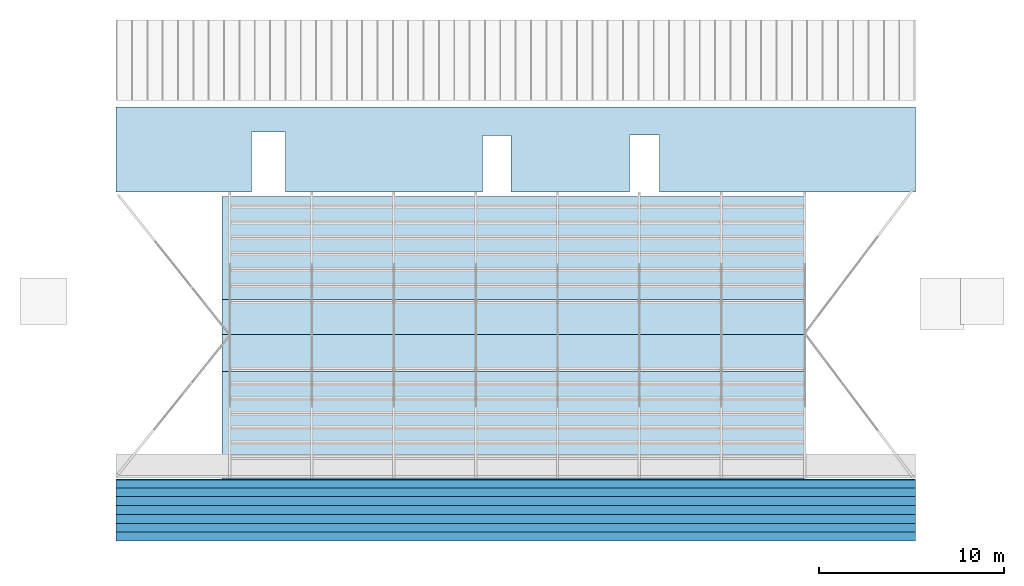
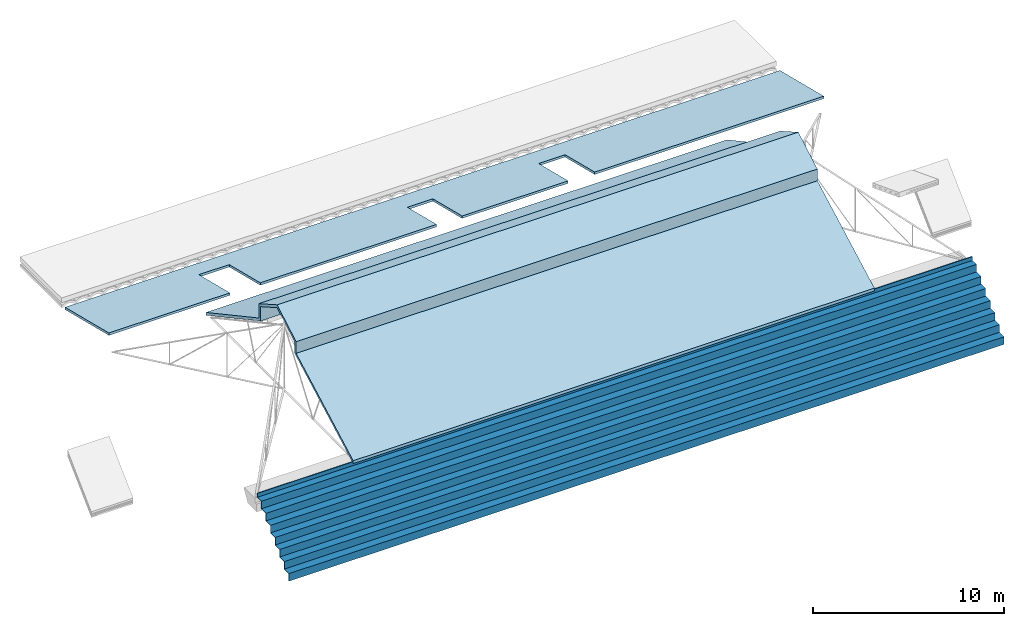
# One storey, part 15 of 15: 3 roofs.
"""IFC4 building model written with IfcOpenShell, lengths in metres."""

from ifc_helpers import new_model, entity, si_unit, converted_unit, derived_unit, direction, frame, origin, place, context, subcontext, project, spatial, polygons, material, constituent, constituent_set, type_object, element, save


model = new_model("IFC4")

# Units and contexts
model_context = context("Model", 3, precision=1e-05, world=origin(), true_north=direction((6.123031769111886e-17, 1.0)))
body_context = subcontext(model_context, "Body", "Model", "MODEL_VIEW")
ifc_project = project(units=[si_unit("LENGTHUNIT", "METRE"), si_unit("AREAUNIT", "SQUARE_METRE"), si_unit("VOLUMEUNIT", "CUBIC_METRE"), converted_unit("PLANEANGLEUNIT", "DEGREE", entity("IfcRatioMeasure", 0.017453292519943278), si_unit("PLANEANGLEUNIT", "RADIAN"), dimensions=[0, 0, 0, 0, 0, 0, 0]), si_unit("MASSUNIT", "GRAM", prefix="KILO"), derived_unit("MASSDENSITYUNIT", [(si_unit("MASSUNIT", "GRAM", prefix="KILO"), 1), (si_unit("LENGTHUNIT", "METRE"), -3)]), derived_unit("MOMENTOFINERTIAUNIT", [(si_unit("LENGTHUNIT", "METRE"), 4)]), si_unit("TIMEUNIT", "SECOND"), si_unit("FREQUENCYUNIT", "HERTZ"), si_unit("THERMODYNAMICTEMPERATUREUNIT", "DEGREE_CELSIUS"), derived_unit("THERMALTRANSMITTANCEUNIT", [(si_unit("MASSUNIT", "GRAM", prefix="KILO"), 1), (si_unit("THERMODYNAMICTEMPERATUREUNIT", "KELVIN"), -1), (si_unit("TIMEUNIT", "SECOND"), -3)]), derived_unit("VOLUMETRICFLOWRATEUNIT", [(si_unit("LENGTHUNIT", "METRE"), 3), (si_unit("TIMEUNIT", "SECOND"), -1)]), derived_unit("MASSFLOWRATEUNIT", [(si_unit("MASSUNIT", "GRAM", prefix="KILO"), 1), (si_unit("TIMEUNIT", "SECOND"), -1)]), derived_unit("ROTATIONALFREQUENCYUNIT", [(si_unit("TIMEUNIT", "SECOND"), -1)]), si_unit("ELECTRICCURRENTUNIT", "AMPERE"), si_unit("ELECTRICVOLTAGEUNIT", "VOLT"), si_unit("POWERUNIT", "WATT"), si_unit("FORCEUNIT", "NEWTON", prefix="KILO"), si_unit("ILLUMINANCEUNIT", "LUX"), si_unit("LUMINOUSFLUXUNIT", "LUMEN"), si_unit("LUMINOUSINTENSITYUNIT", "CANDELA"), derived_unit("USERDEFINED", [(si_unit("MASSUNIT", "GRAM", prefix="KILO"), -1), (si_unit("LENGTHUNIT", "METRE"), -2), (si_unit("TIMEUNIT", "SECOND"), 3), (si_unit("LUMINOUSFLUXUNIT", "LUMEN"), 1)]), derived_unit("SOUNDPOWERUNIT", [(si_unit("MASSUNIT", "GRAM", prefix="KILO"), 1), (si_unit("LENGTHUNIT", "METRE"), 2), (si_unit("TIMEUNIT", "SECOND"), -3)]), derived_unit("SOUNDPRESSUREUNIT", [(si_unit("MASSUNIT", "GRAM", prefix="KILO"), 1), (si_unit("LENGTHUNIT", "METRE"), -1), (si_unit("TIMEUNIT", "SECOND"), -2)]), derived_unit("LINEARVELOCITYUNIT", [(si_unit("LENGTHUNIT", "METRE"), 1), (si_unit("TIMEUNIT", "SECOND"), -1)]), si_unit("PRESSUREUNIT", "PASCAL"), derived_unit("USERDEFINED", [(si_unit("LENGTHUNIT", "METRE"), -2), (si_unit("MASSUNIT", "GRAM", prefix="KILO"), 1), (si_unit("TIMEUNIT", "SECOND"), -2)]), derived_unit("LINEARFORCEUNIT", [(si_unit("MASSUNIT", "GRAM", prefix="KILO"), 1), (si_unit("LENGTHUNIT", "METRE"), 1), (si_unit("TIMEUNIT", "SECOND"), -2), (si_unit("LENGTHUNIT", "METRE"), -1)]), derived_unit("PLANARFORCEUNIT", [(si_unit("MASSUNIT", "GRAM", prefix="KILO"), 1), (si_unit("LENGTHUNIT", "METRE"), 1), (si_unit("TIMEUNIT", "SECOND"), -2), (si_unit("LENGTHUNIT", "METRE"), -2)])], contexts=[model_context])

# Site, building, storey
site_placement = place(None, origin())
site = spatial("IfcSite", under=ifc_project, at=site_placement, Name="Superficie", CompositionType="ELEMENT")
building_placement = place(site_placement, origin())
building = spatial("IfcBuilding", under=site, at=building_placement, CompositionType="ELEMENT")
storey_placement = place(building_placement, frame((0.0, 0.0, 7.25)))
storey = spatial("IfcBuildingStorey", under=building, at=storey_placement, Name="Nivel 2", CompositionType="ELEMENT", Elevation=7.25)

# Roofs
ifc_material_1 = material(Name="Aislamiento térmico", Category="Varios")
ifc_constituent_1 = constituent(ifc_material_1, Name="Aislamiento térmico", Category="Varios")
ifc_material_2 = material(Name="Metal - Chapado (1)", Category="Metal")
ifc_constituent_2 = constituent(ifc_material_2, Name="Metal - Chapado (1)", Category="Metal")
ifc_constituent_set_1 = constituent_set(constituents=[ifc_constituent_1, ifc_constituent_2], Name="Cubierta básica:Plana tipo deck - 16 cm")
roof_type_1 = type_object("IfcRoofType", Name="Cubierta básica:Plana tipo deck - 16 cm", PredefinedType="NOTDEFINED")
roof_1_placement = place(storey_placement, frame((-16.923200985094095, -9.904159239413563, 0.4289756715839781)))
element("IfcRoof", 1, at=roof_1_placement, inside=storey, type_object=roof_type_1, material=ifc_constituent_set_1, Name="Cubierta básica:Plana tipo deck - 16 cm", ObjectType="Cubierta básica:Plana tipo deck - 16 cm", PredefinedType="NOTDEFINED", context=body_context, shape_type="Tessellation", body=[
    polygons([(0.0, 5.1977622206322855e-14, 0.18197863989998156), (1.0828671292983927e-14, 5.978723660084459, 3.4215562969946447), (1.0828671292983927e-14, 5.978723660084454, 4.168369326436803), (1.7325874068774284e-14, 7.972589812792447, 5.314884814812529), (1.7325874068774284e-14, 9.878723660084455, 4.232499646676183), (1.7325874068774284e-14, 9.878723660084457, 3.3141465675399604), (2.5988811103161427e-14, 15.435948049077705, 0.30295873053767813), (2.5988811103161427e-14, 15.435948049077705, 0.12098009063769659), (1.7325874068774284e-14, 9.718723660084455, 3.2188640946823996), (1.7325874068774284e-14, 9.718723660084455, 4.139358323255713), (1.7325874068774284e-14, 7.973088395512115, 5.130605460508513), (1.0828671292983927e-14, 6.138723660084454, 4.075806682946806), (1.0828671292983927e-14, 6.138723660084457, 3.326273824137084), (0.0, 5.1977622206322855e-14, 0.0), (31.52054918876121, 0.0, 0.18197863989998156), (31.52054918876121, 0.0, 0.0), (31.520549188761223, 6.138723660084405, 3.326273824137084), (31.520549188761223, 6.138723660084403, 4.075806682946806), (31.520549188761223, 7.973088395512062, 5.130605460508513), (31.520549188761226, 9.718723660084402, 4.139358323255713), (31.520549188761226, 9.718723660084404, 3.2188640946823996), (31.520549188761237, 15.435948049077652, 0.12098009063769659), (31.520549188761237, 15.435948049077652, 0.30295873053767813), (31.520549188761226, 9.878723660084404, 3.3141465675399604), (31.520549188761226, 9.878723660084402, 4.232499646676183), (31.520549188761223, 7.9725898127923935, 5.314884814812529), (31.520549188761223, 5.978723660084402, 4.168369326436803), (31.520549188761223, 5.9787236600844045, 3.4215562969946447)], [[[1, 2, 3, 4, 5, 6, 7, 8, 9, 10, 11, 12, 13, 14]], [[15, 16, 17, 18, 19, 20, 21, 22, 23, 24, 25, 26, 27, 28]], [[2, 1, 15, 28]], [[3, 2, 28, 27]], [[4, 3, 27, 26]], [[5, 4, 26, 25]], [[6, 5, 25, 24]], [[7, 6, 24, 23]], [[8, 7, 23, 22]], [[9, 8, 22, 21]], [[10, 9, 21, 20]], [[11, 10, 20, 19]], [[12, 11, 19, 18]], [[13, 12, 18, 17]], [[14, 13, 17, 16]], [[1, 14, 16, 15]]], closed=True),
])
ifc_material_3 = material(Name="Piedra - pizarra", Category="Piedra")
ifc_constituent_3 = constituent(ifc_material_3, Name="Piedra - pizarra", Category="Piedra")
ifc_material_4 = material(Name="Madera - Listel", Category="Madera")
ifc_constituent_4 = constituent(ifc_material_4, Name="Madera - Listel", Category="Madera")
ifc_constituent_5 = constituent(ifc_material_1, Name="Aislamiento térmico", Category="Varios")
ifc_constituent_6 = constituent(ifc_material_4, Name="Madera - Listel (2)", Category="Madera")
ifc_constituent_set_2 = constituent_set(constituents=[ifc_constituent_3, ifc_constituent_4, ifc_constituent_5, ifc_constituent_6], Name="Cubierta básica:Pizarra sobre rastreles - 15 cm")
roof_type_2 = type_object("IfcRoofType", Name="Cubierta básica:Pizarra sobre rastreles - 15 cm", PredefinedType="NOTDEFINED")
roof_2_placement = place(storey_placement, frame((-22.643200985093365, 5.775829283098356, -0.02049200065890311)))
element("IfcRoof", 2, at=roof_2_placement, inside=storey, type_object=roof_type_2, material=ifc_constituent_set_2, Name="Cubierta básica:Pizarra sobre rastreles - 15 cm", ObjectType="Cubierta básica:Pizarra sobre rastreles - 15 cm", PredefinedType="NOTDEFINED", context=body_context, shape_type="Tessellation", body=[
    polygons([(0.0, 6.930349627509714e-14, 1.2834950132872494), (8.662937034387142e-15, 4.595000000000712, 0.14423881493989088), (43.230000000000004, 4.59500000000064, 0.14423881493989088), (43.23, 1.0828671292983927e-15, 1.2834950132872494), (29.374202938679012, 2.2740209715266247e-14, 1.2834950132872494), (29.374202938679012, 3.10000000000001, 0.5148999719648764), (27.77420293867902, 3.100000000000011, 0.5148999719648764), (27.77420293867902, 2.5988811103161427e-14, 1.2834950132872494), (21.359202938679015, 3.573461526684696e-14, 1.2834950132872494), (21.359202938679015, 3.060000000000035, 0.5248173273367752), (19.81920293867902, 3.060000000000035, 0.5248173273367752), (19.81920293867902, 3.898321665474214e-14, 1.2834950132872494), (9.15420293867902, 5.630909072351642e-14, 1.2834950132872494), (9.15420293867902, 3.250000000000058, 0.47770988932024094), (7.319999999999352, 3.250000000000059, 0.477709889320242), (7.319999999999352, 5.739195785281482e-14, 1.2834950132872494), (0.0, 6.822062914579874e-14, 1.2937977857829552), (8.662937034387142e-15, 4.595000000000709, 0.15454158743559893), (43.230000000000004, 4.59500000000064, 0.15454158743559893), (43.23, 0.0, 1.2937977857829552), (7.319999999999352, 5.739195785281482e-14, 1.2937977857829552), (7.319999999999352, 3.250000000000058, 0.488012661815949), (9.15420293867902, 3.250000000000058, 0.488012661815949), (9.154202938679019, 5.630909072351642e-14, 1.2937977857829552), (19.81920293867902, 3.898321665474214e-14, 1.2937977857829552), (19.81920293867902, 3.060000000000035, 0.5351200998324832), (21.359202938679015, 3.060000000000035, 0.5351200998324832), (21.359202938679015, 3.573461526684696e-14, 1.2937977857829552), (27.77420293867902, 2.5988811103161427e-14, 1.2937977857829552), (27.77420293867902, 3.100000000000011, 0.5252027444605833), (29.374202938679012, 3.10000000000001, 0.5252027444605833), (29.374202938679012, 2.2740209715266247e-14, 1.2937977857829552)], [[[1, 2, 3, 4, 5, 6, 7, 8, 9, 10, 11, 12, 13, 14, 15, 16]], [[17, 18, 2, 1]], [[19, 20, 4, 3]], [[18, 17, 21, 22, 23, 24, 25, 26, 27, 28, 29, 30, 31, 32, 20, 19]], [[18, 19, 3, 2]], [[21, 17, 1, 16]], [[22, 21, 16, 15]], [[24, 23, 14, 13]], [[23, 22, 15, 14]], [[26, 25, 12, 11]], [[28, 27, 10, 9]], [[27, 26, 11, 10]], [[30, 29, 8, 7]], [[32, 31, 6, 5]], [[31, 30, 7, 6]], [[25, 24, 13, 12]], [[29, 28, 9, 8]], [[20, 32, 5, 4]]], closed=True),
    polygons([(0.0, 6.930349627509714e-14, 1.2525866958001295), (8.662937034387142e-15, 4.595000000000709, 0.1133304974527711), (43.230000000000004, 4.59500000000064, 0.1133304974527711), (43.23, 2.1657342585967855e-15, 1.2525866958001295), (29.374202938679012, 2.2740209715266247e-14, 1.2525866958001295), (29.374202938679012, 3.10000000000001, 0.4839916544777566), (27.77420293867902, 3.100000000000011, 0.4839916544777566), (27.77420293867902, 2.5988811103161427e-14, 1.2525866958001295), (21.359202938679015, 3.573461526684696e-14, 1.2525866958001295), (21.359202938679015, 3.060000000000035, 0.4939090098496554), (19.81920293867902, 3.060000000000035, 0.4939090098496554), (19.81920293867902, 3.898321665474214e-14, 1.2525866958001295), (9.15420293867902, 5.630909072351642e-14, 1.2525866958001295), (9.15420293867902, 3.250000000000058, 0.44680157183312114), (7.319999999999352, 3.250000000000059, 0.44680157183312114), (7.319999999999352, 5.739195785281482e-14, 1.2525866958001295), (8.662937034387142e-15, 4.595000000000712, 0.14423881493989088), (0.0, 6.930349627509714e-14, 1.2834950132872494), (43.23, 1.0828671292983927e-15, 1.2834950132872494), (43.230000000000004, 4.59500000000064, 0.14423881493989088), (7.319999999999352, 5.739195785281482e-14, 1.2834950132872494), (7.319999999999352, 3.250000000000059, 0.477709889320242), (9.15420293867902, 5.630909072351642e-14, 1.2834950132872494), (9.15420293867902, 3.250000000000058, 0.47770988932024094), (19.81920293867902, 3.790034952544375e-14, 1.2834950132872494), (19.81920293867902, 3.060000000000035, 0.5248173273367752), (21.359202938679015, 3.573461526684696e-14, 1.2834950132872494), (21.359202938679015, 3.060000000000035, 0.5248173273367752), (27.77420293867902, 2.5988811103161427e-14, 1.2834950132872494), (27.77420293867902, 3.100000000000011, 0.5148999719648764), (29.374202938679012, 2.2740209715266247e-14, 1.2834950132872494), (29.374202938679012, 3.100000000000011, 0.5148999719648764)], [[[1, 2, 3, 4, 5, 6, 7, 8, 9, 10, 11, 12, 13, 14, 15, 16]], [[17, 2, 1, 18]], [[19, 4, 3, 20]], [[2, 17, 20, 3]], [[18, 1, 16, 21]], [[21, 16, 15, 22]], [[13, 23, 24, 14]], [[22, 15, 14, 24]], [[25, 12, 11, 26]], [[9, 27, 28, 10]], [[26, 11, 10, 28]], [[29, 8, 7, 30]], [[5, 31, 32, 6]], [[30, 7, 6, 32]], [[17, 18, 21, 22, 24, 23, 25, 26, 28, 27, 29, 30, 32, 31, 19, 20]], [[23, 13, 12, 25]], [[27, 9, 8, 29]], [[4, 19, 31, 5]]], closed=True),
    polygons([(0.0, 6.930349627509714e-14, 1.1701645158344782), (8.662937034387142e-15, 4.595000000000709, 0.030908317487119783), (43.230000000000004, 4.59500000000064, 0.030908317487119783), (43.23, 1.0828671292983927e-15, 1.1701645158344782), (29.374202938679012, 2.2740209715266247e-14, 1.1701645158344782), (29.374202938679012, 3.10000000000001, 0.4015694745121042), (27.77420293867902, 3.100000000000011, 0.4015694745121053), (27.77420293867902, 2.5988811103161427e-14, 1.1701645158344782), (21.359202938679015, 3.573461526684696e-14, 1.1701645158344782), (21.359202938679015, 3.060000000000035, 0.4114868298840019), (19.81920293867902, 3.060000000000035, 0.4114868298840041), (19.81920293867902, 3.898321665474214e-14, 1.1701645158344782), (9.15420293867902, 5.630909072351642e-14, 1.1701645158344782), (9.15420293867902, 3.250000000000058, 0.3643793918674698), (7.319999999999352, 3.250000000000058, 0.3643793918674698), (7.319999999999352, 5.739195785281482e-14, 1.1701645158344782), (8.662937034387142e-15, 4.595000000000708, 0.1133304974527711), (0.0, 6.930349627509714e-14, 1.2525866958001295), (43.23, 1.0828671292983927e-15, 1.2525866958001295), (43.230000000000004, 4.59500000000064, 0.1133304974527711), (7.319999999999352, 5.739195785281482e-14, 1.2525866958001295), (7.319999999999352, 3.250000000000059, 0.44680157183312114), (9.15420293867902, 5.630909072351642e-14, 1.2525866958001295), (9.15420293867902, 3.250000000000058, 0.44680157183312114), (19.81920293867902, 3.790034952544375e-14, 1.2525866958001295), (19.81920293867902, 3.060000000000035, 0.4939090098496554), (21.359202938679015, 3.573461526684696e-14, 1.2525866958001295), (21.359202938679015, 3.060000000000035, 0.4939090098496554), (27.77420293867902, 2.5988811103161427e-14, 1.2525866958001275), (27.77420293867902, 3.100000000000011, 0.4839916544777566), (29.374202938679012, 2.2740209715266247e-14, 1.2525866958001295), (29.374202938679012, 3.100000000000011, 0.4839916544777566)], [[[1, 2, 3, 4, 5, 6, 7, 8, 9, 10, 11, 12, 13, 14, 15, 16]], [[17, 2, 1, 18]], [[19, 4, 3, 20]], [[2, 17, 20, 3]], [[18, 1, 16, 21]], [[21, 16, 15, 22]], [[13, 23, 24, 14]], [[22, 15, 14, 24]], [[25, 12, 11, 26]], [[9, 27, 28, 10]], [[26, 11, 10, 28]], [[29, 8, 7, 30]], [[5, 31, 32, 6]], [[30, 7, 6, 32]], [[17, 18, 21, 22, 24, 23, 25, 26, 28, 27, 29, 30, 32, 31, 19, 20]], [[23, 13, 12, 25]], [[27, 9, 8, 29]], [[4, 19, 31, 5]]], closed=True),
    polygons([(8.662937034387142e-15, 4.595000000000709, -1.0828671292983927e-15), (0.0, 6.822062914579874e-14, 1.1392561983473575), (0.0, 6.930349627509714e-14, 1.1701645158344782), (8.662937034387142e-15, 4.595000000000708, 0.030908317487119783), (43.23, 0.0, 1.1392561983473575), (43.230000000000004, 4.59500000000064, -1.0828671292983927e-15), (43.230000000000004, 4.59500000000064, 0.030908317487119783), (43.23, 1.0828671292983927e-15, 1.1701645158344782), (7.319999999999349, 5.739195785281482e-14, 1.1392561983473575), (7.319999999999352, 5.739195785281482e-14, 1.1701645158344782), (7.319999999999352, 3.250000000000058, 0.3334710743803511), (7.319999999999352, 3.250000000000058, 0.3643793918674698), (9.15420293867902, 3.250000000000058, 0.3334710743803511), (9.154202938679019, 5.522622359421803e-14, 1.1392561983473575), (9.15420293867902, 5.630909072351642e-14, 1.1701645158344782), (9.15420293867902, 3.250000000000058, 0.36437939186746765), (19.81920293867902, 3.790034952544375e-14, 1.1392561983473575), (19.81920293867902, 3.0600000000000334, 0.3805785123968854), (19.81920293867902, 3.060000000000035, 0.4114868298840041), (19.81920293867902, 3.790034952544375e-14, 1.1701645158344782), (21.359202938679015, 3.0600000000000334, 0.3805785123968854), (21.359202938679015, 3.573461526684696e-14, 1.1392561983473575), (21.359202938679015, 3.573461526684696e-14, 1.1701645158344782), (21.359202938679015, 3.060000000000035, 0.4114868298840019), (27.77420293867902, 2.4905943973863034e-14, 1.1392561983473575), (27.77420293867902, 3.10000000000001, 0.3706611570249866), (27.77420293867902, 3.100000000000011, 0.4015694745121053), (27.77420293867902, 2.5988811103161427e-14, 1.1701645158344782), (29.374202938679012, 3.10000000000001, 0.3706611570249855), (29.374202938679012, 2.2740209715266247e-14, 1.1392561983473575), (29.374202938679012, 2.2740209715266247e-14, 1.1701645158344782), (29.374202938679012, 3.100000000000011, 0.4015694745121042)], [[[1, 2, 3, 4]], [[5, 6, 7, 8]], [[6, 1, 4, 7]], [[2, 9, 10, 3]], [[9, 11, 12, 10]], [[13, 14, 15, 16]], [[11, 13, 16, 12]], [[17, 18, 19, 20]], [[21, 22, 23, 24]], [[18, 21, 24, 19]], [[25, 26, 27, 28]], [[29, 30, 31, 32]], [[26, 29, 32, 27]], [[4, 3, 10, 12, 16, 15, 20, 19, 24, 23, 28, 27, 32, 31, 8, 7]], [[2, 1, 6, 5, 30, 29, 26, 25, 22, 21, 18, 17, 14, 13, 11, 9]], [[14, 17, 20, 15]], [[22, 25, 28, 23]], [[30, 5, 8, 31]]], closed=True),
])
ifc_material_5 = material(Name="Cubierta por defecto", Category="Genérico")
roof_type_3 = type_object("IfcRoofType", Name="Cubierta básica:Cubierta - chapa- 0.05 cm 2", PredefinedType="NOTDEFINED")
roof_3_placement = place(storey_placement, frame((-22.64320098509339, -13.094243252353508, -3.150000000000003)))
element("IfcRoof", 3, at=roof_3_placement, inside=storey, type_object=roof_type_3, material=ifc_material_5, Name="Cubierta básica:Cubierta - chapa- 0.05 cm 2", ObjectType="Cubierta básica:Cubierta - chapa- 0.05 cm 2", PredefinedType="NOTDEFINED", context=body_context, shape_type="Tessellation", body=[
    polygons([(43.23000000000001, 3.299050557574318, 3.611432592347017), (43.23000000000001, 3.299050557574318, 3.3629451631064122), (43.23000000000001, 2.879999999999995, 3.3629451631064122), (43.23000000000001, 2.879999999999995, 2.882945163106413), (43.23000000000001, 2.399999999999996, 2.882945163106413), (43.23000000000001, 2.399999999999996, 2.402945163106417), (43.23000000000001, 1.9199999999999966, 2.402945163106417), (43.23000000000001, 1.9199999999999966, 1.922945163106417), (43.23000000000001, 1.4399999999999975, 1.922945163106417), (43.23000000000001, 1.4399999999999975, 1.4429451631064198), (43.230000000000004, 0.9599999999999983, 1.4429451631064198), (43.230000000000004, 0.9599999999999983, 0.9629451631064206), (43.230000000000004, 0.47999999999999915, 0.9629451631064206), (43.230000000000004, 0.47999999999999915, 0.48294516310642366), (43.230000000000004, 0.0, 0.48294516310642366), (43.230000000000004, 0.0, 0.0), (43.230000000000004, 0.04999999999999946, 0.0), (43.230000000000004, 0.04999999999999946, 0.4329451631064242), (43.230000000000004, 0.5299999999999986, 0.4329451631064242), (43.230000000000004, 0.5299999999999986, 0.9129451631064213), (43.230000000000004, 1.0099999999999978, 0.9129451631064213), (43.230000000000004, 1.0099999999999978, 1.3929451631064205), (43.23000000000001, 1.4899999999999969, 1.3929451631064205), (43.23000000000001, 1.4899999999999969, 1.8729451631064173), (43.23000000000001, 1.9699999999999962, 1.8729451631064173), (43.23000000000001, 1.9699999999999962, 2.3529451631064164), (43.23000000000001, 2.4499999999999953, 2.3529451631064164), (43.23000000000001, 2.4499999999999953, 2.8329451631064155), (43.23000000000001, 2.9299999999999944, 2.8329451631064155), (43.23000000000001, 2.9299999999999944, 3.3129451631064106), (43.23000000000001, 3.3490505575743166, 3.3129451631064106), (43.23000000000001, 3.3490505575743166, 3.611432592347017), (4.331468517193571e-15, 3.2990505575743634, 3.611432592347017), (4.331468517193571e-15, 3.3490505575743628, 3.611432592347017), (4.331468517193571e-15, 3.3490505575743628, 3.3129451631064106), (4.331468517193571e-15, 2.93000000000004, 3.3129451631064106), (4.331468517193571e-15, 2.93000000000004, 2.8329451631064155), (4.331468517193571e-15, 2.4500000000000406, 2.8329451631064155), (4.331468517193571e-15, 2.4500000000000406, 2.3529451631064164), (4.331468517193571e-15, 1.9700000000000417, 2.3529451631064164), (4.331468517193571e-15, 1.9700000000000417, 1.8729451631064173), (4.331468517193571e-15, 1.4900000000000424, 1.8729451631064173), (4.331468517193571e-15, 1.4900000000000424, 1.3929451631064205), (0.0, 1.0100000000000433, 1.3929451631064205), (0.0, 1.0100000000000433, 0.9129451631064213), (0.0, 0.5300000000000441, 0.9129451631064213), (0.0, 0.5300000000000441, 0.4329451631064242), (0.0, 0.05000000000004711, 0.4329451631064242), (0.0, 0.05000000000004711, 0.0), (0.0, 4.5480419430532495e-14, 0.0), (0.0, 4.5480419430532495e-14, 0.48294516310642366), (0.0, 0.48000000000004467, 0.48294516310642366), (0.0, 0.48000000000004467, 0.9629451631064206), (0.0, 0.9600000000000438, 0.9629451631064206), (0.0, 0.9600000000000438, 1.4429451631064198), (4.331468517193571e-15, 1.440000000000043, 1.4429451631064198), (4.331468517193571e-15, 1.440000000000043, 1.922945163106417), (4.331468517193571e-15, 1.9200000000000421, 1.922945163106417), (4.331468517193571e-15, 1.9200000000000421, 2.402945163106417), (4.331468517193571e-15, 2.400000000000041, 2.402945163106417), (4.331468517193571e-15, 2.400000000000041, 2.882945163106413), (4.331468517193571e-15, 2.8800000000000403, 2.882945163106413), (4.331468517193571e-15, 2.8800000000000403, 3.3629451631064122), (4.331468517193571e-15, 3.2990505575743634, 3.3629451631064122)], [[[1, 2, 3, 4, 5, 6, 7, 8, 9, 10, 11, 12, 13, 14, 15, 16, 17, 18, 19, 20, 21, 22, 23, 24, 25, 26, 27, 28, 29, 30, 31, 32]], [[33, 34, 35, 36, 37, 38, 39, 40, 41, 42, 43, 44, 45, 46, 47, 48, 49, 50, 51, 52, 53, 54, 55, 56, 57, 58, 59, 60, 61, 62, 63, 64]], [[3, 2, 64, 63]], [[4, 3, 63, 62]], [[5, 4, 62, 61]], [[6, 5, 61, 60]], [[7, 6, 60, 59]], [[8, 7, 59, 58]], [[9, 8, 58, 57]], [[10, 9, 57, 56]], [[11, 10, 56, 55]], [[12, 11, 55, 54]], [[13, 12, 54, 53]], [[14, 13, 53, 52]], [[15, 14, 52, 51]], [[16, 15, 51, 50]], [[17, 16, 50, 49]], [[18, 17, 49, 48]], [[19, 18, 48, 47]], [[20, 19, 47, 46]], [[21, 20, 46, 45]], [[22, 21, 45, 44]], [[23, 22, 44, 43]], [[24, 23, 43, 42]], [[25, 24, 42, 41]], [[26, 25, 41, 40]], [[27, 26, 40, 39]], [[28, 27, 39, 38]], [[29, 28, 38, 37]], [[30, 29, 37, 36]], [[31, 30, 36, 35]], [[2, 1, 33, 64]], [[32, 31, 35, 34]], [[1, 32, 34, 33]]], closed=True),
])

save(model, "model.ifc")
